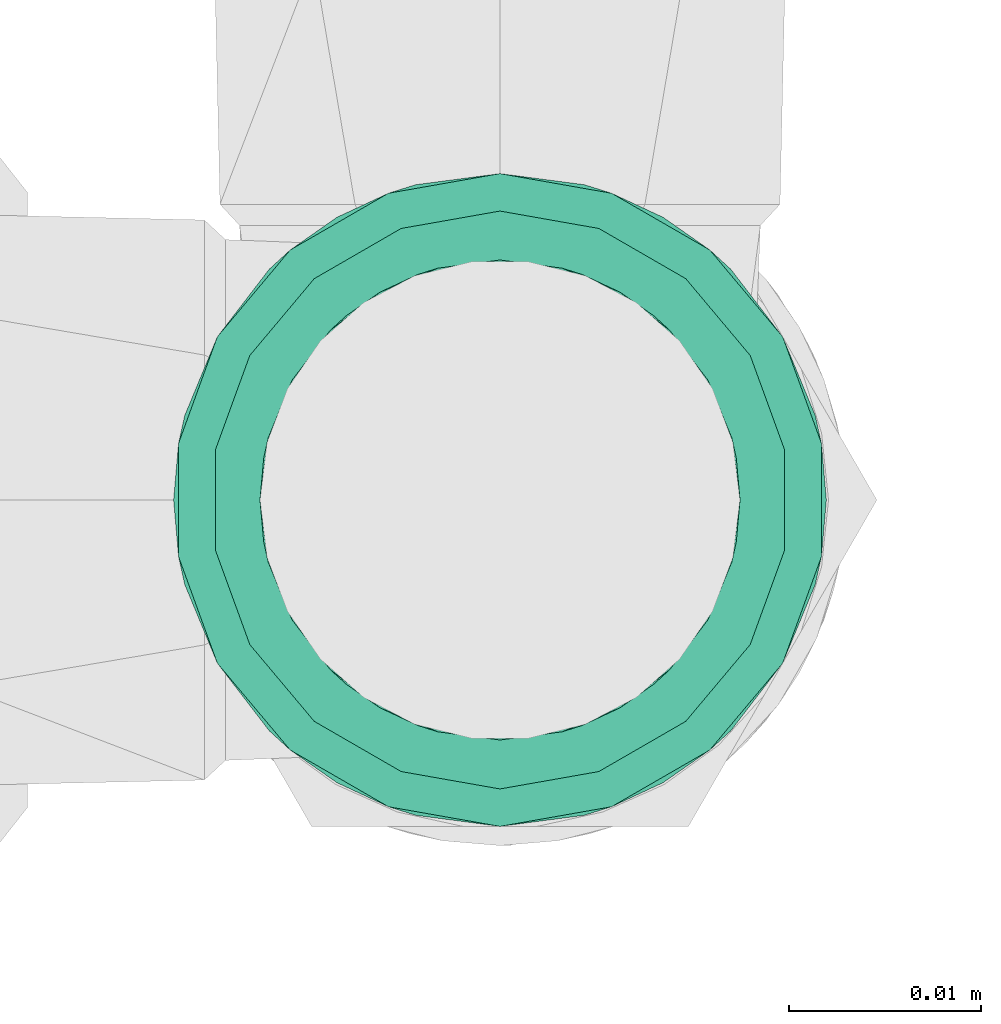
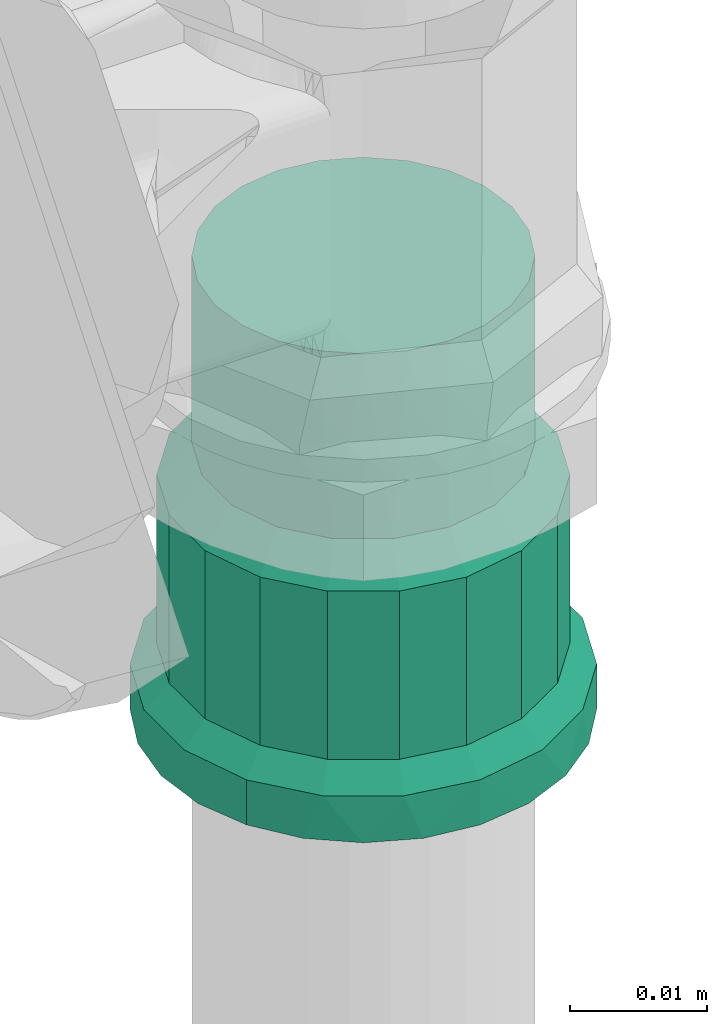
# One storey, part 325 of 589: 1 flow fitting.
"""IFC2X3 building model written with IfcOpenShell, lengths in millimetres."""

import ifcopenshell
import ifcopenshell.guid

model = None  # the IFC model being written
_history = None  # IfcOwnerHistory: only IFC2X3 demands one
_inside = {}  # id of a spatial element -> (the spatial element, [elements in it])
_under = {}  # id of a project, library or spatial element -> (it, [spatial elements below it])
_declared = {}  # id of a project -> (the project, [libraries it declares])
_typed = {}  # id of a type object -> (the type object, [elements of that type])
_made_of = {}  # id of a material, layer set ... -> (it, [elements and type objects made of it])


def new_model(schema):
    """Start an empty IFC model of exactly this schema.

    Asked for "IFC4X3", IfcOpenShell would pick the latest addendum, in which some entities
    have other attributes; the version numbers below select the first issue.
    IFC2X3 requires an IfcOwnerHistory on every rooted entity: one is made here for all.
    """
    global model, _history
    if schema == "IFC4X3":
        model = ifcopenshell.file(schema_version=(4, 3, 0, 0))
    else:
        model = ifcopenshell.file(schema=schema)
    _inside.clear()
    _under.clear()
    _declared.clear()
    _typed.clear()
    _made_of.clear()
    _history = None
    if model.schema == "IFC2X3":
        org = make("IfcOrganization", Name="unknown")
        user = make(
            "IfcPersonAndOrganization",
            ThePerson=make("IfcPerson", FamilyName="unknown"),
            TheOrganization=org,
        )
        app = make(
            "IfcApplication",
            ApplicationDeveloper=org,
            Version="unknown",
            ApplicationFullName="unknown",
            ApplicationIdentifier="unknown",
        )
        _history = make(
            "IfcOwnerHistory",
            OwningUser=user,
            OwningApplication=app,
            ChangeAction="ADDED",
            CreationDate=0,
        )
    return model


def make(cls, **values):
    """One entity of the class cls with the attributes given. An attribute that is None is left unset."""
    return model.create_entity(
        cls, **{name: value for name, value in values.items() if value is not None}
    )


def entity(cls, *values):
    """Any entity or typed value of the class cls, its attributes in the order of the schema. None: left unset."""
    e = model.create_entity(cls)
    for i, value in enumerate(values):
        if value is not None:
            e[i] = value
    return e


def rooted(cls, **values):
    """An entity with a GlobalId (a new one), such as an element, a storey or a relation."""
    return make(cls, GlobalId=ifcopenshell.guid.new(), OwnerHistory=_history, **values)


def si_unit(unit_type, name, prefix=None):
    """IfcSIUnit, for example si_unit("LENGTHUNIT", "METRE", prefix="MILLI")."""
    return make("IfcSIUnit", UnitType=unit_type, Prefix=prefix, Name=name)


def converted_unit(unit_type, name, factor, base, dimensions=None, offset=None):
    """IfcConversionBasedUnit, such as the inch: factor (a typed value) times the base unit."""
    return make(
        "IfcConversionBasedUnit"
        if offset is None
        else "IfcConversionBasedUnitWithOffset",
        ConversionOffset=offset,
        Dimensions=None
        if dimensions is None
        else entity("IfcDimensionalExponents", *dimensions),
        UnitType=unit_type,
        Name=name,
        ConversionFactor=make(
            "IfcMeasureWithUnit", ValueComponent=factor, UnitComponent=base
        ),
    )


def derived_unit(unit_type, elements):
    """IfcDerivedUnit: a product of units, each with its exponent."""
    return make(
        "IfcDerivedUnit",
        Elements=[
            make("IfcDerivedUnitElement", Unit=unit, Exponent=power)
            for unit, power in elements
        ],
        UnitType=unit_type,
    )


def assignment(units):
    """IfcUnitAssignment: the units of a project."""
    return None if units is None else make("IfcUnitAssignment", Units=units)


def point(xyz):
    """IfcCartesianPoint."""
    return None if xyz is None else make("IfcCartesianPoint", Coordinates=xyz)


def direction(xyz):
    """IfcDirection."""
    return None if xyz is None else make("IfcDirection", DirectionRatios=xyz)


def frame(location, z_axis=None, x_axis=None):
    """IfcAxis2Placement3D, a coordinate frame: its origin and axes. An axis left out is left unset."""
    return make(
        "IfcAxis2Placement3D",
        Location=point(location),
        Axis=direction(z_axis),
        RefDirection=direction(x_axis),
    )


def origin():
    """The frame at (0, 0, 0) with its axes left unset."""
    return frame((0.0, 0.0, 0.0))


def place(relative_to, where):
    """IfcLocalPlacement: puts the frame where relative to a parent placement (None: the world)."""
    return make(
        "IfcLocalPlacement", PlacementRelTo=relative_to, RelativePlacement=where
    )


def context(
    kind, dimensions, precision=None, world=None, true_north=None, identifier=None
):
    """IfcGeometricRepresentationContext, for example the 3D "Model" context."""
    return make(
        "IfcGeometricRepresentationContext",
        ContextIdentifier=identifier,
        ContextType=kind,
        CoordinateSpaceDimension=dimensions,
        Precision=precision,
        WorldCoordinateSystem=world,
        TrueNorth=true_north,
    )


def subcontext(parent, identifier, kind, view, scale=None):
    """IfcGeometricRepresentationSubContext, for example "Body" below "Model"."""
    return make(
        "IfcGeometricRepresentationSubContext",
        ContextIdentifier=identifier,
        ContextType=kind,
        ParentContext=parent,
        TargetScale=scale,
        TargetView=view,
    )


def project(units=None, contexts=None):
    """IfcProject with its units and contexts."""
    return rooted(
        "IfcProject",
        Name="project",
        RepresentationContexts=contexts,
        UnitsInContext=assignment(units),
    )


def spatial(cls, under=None, at=None, **own):
    """A site, building, storey or space (cls), placed at a placement, below another one or the project."""
    s = rooted(cls, ObjectPlacement=at, **own)
    if under is not None:
        _under.setdefault(under.id(), (under, []))[1].append(s)
    return s


def faces_of(points, faces, orient=None, outer=None):
    """IfcFace entities. A face is a list of loops; a loop is a list of indices into points, from 0.

    orient and outer hold one flag for each loop. By default every Orientation is true, the
    first loop of a face is its IfcFaceOuterBound and the others are IfcFaceBound.
    """
    made = []
    for i, loops in enumerate(faces):
        bounds = []
        for j, loop in enumerate(loops):
            is_outer = j == 0 if outer is None else outer[i][j]
            bounds.append(
                make(
                    "IfcFaceOuterBound" if is_outer else "IfcFaceBound",
                    Bound=make("IfcPolyLoop", Polygon=[points[k] for k in loop]),
                    Orientation=True if orient is None else orient[i][j],
                )
            )
        made.append(make("IfcFace", Bounds=bounds))
    return made


def faceted_brep(points, faces, orient=None, outer=None, voids=None):
    """IfcFacetedBrep: a solid bounded by flat faces; with voids (closed shells), ...WithVoids."""
    shared = [point(p) for p in points]
    hull = make("IfcClosedShell", CfsFaces=faces_of(shared, faces, orient, outer))
    if voids is None:
        return make("IfcFacetedBrep", Outer=hull)
    return make(
        "IfcFacetedBrepWithVoids",
        Outer=hull,
        Voids=[
            make(cls, CfsFaces=faces_of(shared, fs, o, b)) for cls, fs, o, b in voids
        ],
    )


def shape(context_of_items, identifier, shape_type, items):
    """IfcShapeRepresentation: the items that make up one representation, for example the "Body"."""
    return make(
        "IfcShapeRepresentation",
        ContextOfItems=context_of_items,
        RepresentationIdentifier=identifier,
        RepresentationType=shape_type,
        Items=items,
    )


def source(mapping_origin, context_of_items, identifier, shape_type, items):
    """IfcRepresentationMap: a shape defined once, which mapped items show again and again."""
    return make(
        "IfcRepresentationMap",
        MappingOrigin=mapping_origin,
        MappedRepresentation=shape(context_of_items, identifier, shape_type, items),
    )


def transform(
    local_origin,
    x_axis=None,
    y_axis=None,
    z_axis=None,
    scale=None,
    scale2=None,
    scale3=None,
    uniform=True,
):
    """IfcCartesianTransformationOperator3D, or its non-uniform kind. x_axis, y_axis, z_axis: its Axis1, 2, 3."""
    if uniform:
        return make(
            "IfcCartesianTransformationOperator3D",
            Axis1=direction(x_axis),
            Axis2=direction(y_axis),
            LocalOrigin=point(local_origin),
            Scale=scale,
            Axis3=direction(z_axis),
        )
    return make(
        "IfcCartesianTransformationOperator3DnonUniform",
        Axis1=direction(x_axis),
        Axis2=direction(y_axis),
        LocalOrigin=point(local_origin),
        Scale=scale,
        Axis3=direction(z_axis),
        Scale2=scale2,
        Scale3=scale3,
    )


def mapped(mapping_source, mapping_target):
    """IfcMappedItem: shows the shape of a source again, moved by a transform."""
    return make(
        "IfcMappedItem", MappingSource=mapping_source, MappingTarget=mapping_target
    )


def material(Name=None, Category=None):
    """IfcMaterial."""
    return make("IfcMaterial", Name=Name, Category=Category)


def made_of(thing, what):
    """Note that an element or type object is made of a material, layer set ...; save() writes the relation."""
    if what is not None:
        _made_of.setdefault(what.id(), (what, []))[1].append(thing)
    return thing


def type_object(cls, material=None, **own):
    """A type object (cls), such as IfcWallType, which elements share."""
    return made_of(rooted(cls, **own), material)


def type_shapes(of_type, sources):
    """Give a type object the sources (RepresentationMaps) that its elements show as mapped items."""
    of_type.RepresentationMaps = sources


def element(
    cls,
    number,
    at=None,
    inside=None,
    cuts=None,
    type_object=None,
    material=None,
    context=None,
    identifier="Body",
    shape_type=None,
    held_by="IfcProductDefinitionShape",
    body=None,
    shapes=None,
    **own,
):
    """One element of the class cls, such as IfcWall. Its Tag is "e" and its number.

    at: its placement. inside: the storey or other place that contains it. cuts: it is an
    opening in that element (IfcRelVoidsElement). A single representation is given by context,
    identifier, shape_type and body (its items); several are given by shapes. held_by: the class
    of the entity that holds the representations. save() writes the other relations.
    """
    e = rooted(cls, Tag="e%d" % number, ObjectPlacement=at, **own)
    if body is not None:
        shapes = [shape(context, identifier, shape_type, body)]
    if shapes is not None:
        e.Representation = make(held_by, Representations=shapes)
    if inside is not None:
        _inside.setdefault(inside.id(), (inside, []))[1].append(e)
    if cuts is not None:
        rooted(
            "IfcRelVoidsElement", RelatingBuildingElement=cuts, RelatedOpeningElement=e
        )
    if type_object is not None:
        _typed.setdefault(type_object.id(), (type_object, []))[1].append(e)
    return made_of(e, material)


def aggregate(whole, parts):
    """IfcRelAggregates: a whole, such as a stair, and the parts it consists of."""
    return rooted("IfcRelAggregates", RelatingObject=whole, RelatedObjects=parts)


def save(model, path):
    """Write the relations noted so far, then the file.

    IfcRelAggregates (storeys below a building ...), IfcRelContainedInSpatialStructure (elements
    in a storey), IfcRelDefinesByType, IfcRelAssociatesMaterial and IfcRelDeclares: one each for
    every whole, place, type object, material and project.
    """
    for whole, parts in _under.values():
        aggregate(whole, parts)
    for where, things in _inside.values():
        rooted(
            "IfcRelContainedInSpatialStructure",
            RelatedElements=things,
            RelatingStructure=where,
        )
    for kind, things in _typed.values():
        rooted("IfcRelDefinesByType", RelatedObjects=things, RelatingType=kind)
    for what, things in _made_of.values():
        rooted("IfcRelAssociatesMaterial", RelatedObjects=things, RelatingMaterial=what)
    for by, libraries in _declared.values():
        rooted("IfcRelDeclares", RelatingContext=by, RelatedDefinitions=libraries)
    model.write(path)


model = new_model("IFC2X3")

# Units and contexts
model_context = context("Model", 3, precision=0.01, world=origin(), true_north=direction((6.123031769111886e-17, 1.0)))
body_context = subcontext(model_context, "Body", "Model", "MODEL_VIEW")
ifc_project = project(units=[si_unit("LENGTHUNIT", "METRE", prefix="MILLI"), si_unit("AREAUNIT", "SQUARE_METRE"), si_unit("VOLUMEUNIT", "CUBIC_METRE"), converted_unit("PLANEANGLEUNIT", "DEGREE", entity("IfcRatioMeasure", 0.017453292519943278), si_unit("PLANEANGLEUNIT", "RADIAN"), dimensions=[0, 0, 0, 0, 0, 0, 0]), si_unit("MASSUNIT", "GRAM", prefix="KILO"), derived_unit("MASSDENSITYUNIT", [(si_unit("MASSUNIT", "GRAM", prefix="KILO"), 1), (si_unit("LENGTHUNIT", "METRE"), -3)]), derived_unit("IONCONCENTRATIONUNIT", [(si_unit("MASSUNIT", "GRAM", prefix="KILO"), 1), (si_unit("LENGTHUNIT", "METRE"), -3)]), derived_unit("MOMENTOFINERTIAUNIT", [(si_unit("LENGTHUNIT", "METRE"), 4)]), si_unit("TIMEUNIT", "SECOND"), si_unit("FREQUENCYUNIT", "HERTZ"), si_unit("THERMODYNAMICTEMPERATUREUNIT", "DEGREE_CELSIUS"), derived_unit("THERMALTRANSMITTANCEUNIT", [(si_unit("MASSUNIT", "GRAM", prefix="KILO"), 1), (si_unit("THERMODYNAMICTEMPERATUREUNIT", "KELVIN"), -1), (si_unit("TIMEUNIT", "SECOND"), -3)]), derived_unit("THERMALCONDUCTANCEUNIT", [(si_unit("MASSUNIT", "GRAM", prefix="KILO"), 1), (si_unit("THERMODYNAMICTEMPERATUREUNIT", "KELVIN"), -1), (si_unit("TIMEUNIT", "SECOND"), -3), (si_unit("LENGTHUNIT", "METRE"), 1)]), derived_unit("VOLUMETRICFLOWRATEUNIT", [(si_unit("LENGTHUNIT", "METRE"), 3), (si_unit("TIMEUNIT", "SECOND"), -1)]), derived_unit("MASSFLOWRATEUNIT", [(si_unit("MASSUNIT", "GRAM", prefix="KILO"), 1), (si_unit("TIMEUNIT", "SECOND"), -1)]), derived_unit("ROTATIONALFREQUENCYUNIT", [(si_unit("TIMEUNIT", "SECOND"), -1)]), si_unit("ELECTRICCURRENTUNIT", "AMPERE"), si_unit("ELECTRICVOLTAGEUNIT", "VOLT"), si_unit("POWERUNIT", "WATT"), si_unit("FORCEUNIT", "NEWTON", prefix="KILO"), si_unit("ILLUMINANCEUNIT", "LUX"), si_unit("LUMINOUSFLUXUNIT", "LUMEN"), si_unit("LUMINOUSINTENSITYUNIT", "CANDELA"), derived_unit("USERDEFINED", [(si_unit("MASSUNIT", "GRAM", prefix="KILO"), -1), (si_unit("LENGTHUNIT", "METRE"), -2), (si_unit("TIMEUNIT", "SECOND"), 3), (si_unit("LUMINOUSFLUXUNIT", "LUMEN"), 1)]), derived_unit("USERDEFINED", [(si_unit("MASSUNIT", "GRAM", prefix="KILO"), 1), (si_unit("TIMEUNIT", "SECOND"), -3), (si_unit("LENGTHUNIT", "METRE"), 3), (si_unit("ELECTRICCURRENTUNIT", "AMPERE"), -2)]), derived_unit("SOUNDPOWERUNIT", [(si_unit("MASSUNIT", "GRAM", prefix="KILO"), 1), (si_unit("TIMEUNIT", "SECOND"), -3), (si_unit("LENGTHUNIT", "METRE"), 2)]), derived_unit("SOUNDPRESSUREUNIT", [(si_unit("MASSUNIT", "GRAM", prefix="KILO"), 1), (si_unit("LENGTHUNIT", "METRE"), -1), (si_unit("TIMEUNIT", "SECOND"), -2)]), derived_unit("LINEARVELOCITYUNIT", [(si_unit("LENGTHUNIT", "METRE"), 1), (si_unit("TIMEUNIT", "SECOND"), -1)]), si_unit("PRESSUREUNIT", "PASCAL"), derived_unit("USERDEFINED", [(si_unit("MASSUNIT", "GRAM", prefix="KILO"), 1), (si_unit("LENGTHUNIT", "METRE"), -2), (si_unit("TIMEUNIT", "SECOND"), -2)]), derived_unit("LINEARFORCEUNIT", [(si_unit("MASSUNIT", "GRAM", prefix="KILO"), 1), (si_unit("TIMEUNIT", "SECOND"), -2)]), derived_unit("PLANARFORCEUNIT", [(si_unit("MASSUNIT", "GRAM", prefix="KILO"), 1), (si_unit("LENGTHUNIT", "METRE"), -1), (si_unit("TIMEUNIT", "SECOND"), -2)]), derived_unit("SPECIFICHEATCAPACITYUNIT", [(si_unit("THERMODYNAMICTEMPERATUREUNIT", "KELVIN"), -1), (si_unit("LENGTHUNIT", "METRE"), 2), (si_unit("TIMEUNIT", "SECOND"), -2)]), derived_unit("HEATINGVALUEUNIT", [(si_unit("LENGTHUNIT", "METRE"), 2), (si_unit("TIMEUNIT", "SECOND"), -2)]), derived_unit("VAPORPERMEABILITYUNIT", [(si_unit("LENGTHUNIT", "METRE"), -1), (si_unit("TIMEUNIT", "SECOND"), 1)]), derived_unit("DYNAMICVISCOSITYUNIT", [(si_unit("MASSUNIT", "GRAM", prefix="KILO"), 1), (si_unit("TIMEUNIT", "SECOND"), -1), (si_unit("LENGTHUNIT", "METRE"), -1)]), derived_unit("THERMALEXPANSIONCOEFFICIENTUNIT", [(si_unit("THERMODYNAMICTEMPERATUREUNIT", "KELVIN"), -1)]), derived_unit("MODULUSOFELASTICITYUNIT", [(si_unit("MASSUNIT", "GRAM", prefix="KILO"), 1), (si_unit("LENGTHUNIT", "METRE"), -1), (si_unit("TIMEUNIT", "SECOND"), -2)]), derived_unit("ISOTHERMALMOISTURECAPACITYUNIT", [(si_unit("LENGTHUNIT", "METRE"), 3), (si_unit("MASSUNIT", "GRAM", prefix="KILO"), -1)]), derived_unit("MOISTUREDIFFUSIVITYUNIT", [(si_unit("TIMEUNIT", "SECOND"), -1), (si_unit("LENGTHUNIT", "METRE"), 2)])], contexts=[model_context])

# Site, building, storey
site_placement = place(None, origin())
site = spatial("IfcSite", under=ifc_project, at=site_placement, Name="Default", CompositionType="ELEMENT")
building_placement = place(site_placement, origin())
building = spatial("IfcBuilding", under=site, at=building_placement, CompositionType="ELEMENT")
storey_placement = place(building_placement, frame((0.0, 0.0, 100.0)))
storey = spatial("IfcBuildingStorey", under=building, at=storey_placement, Name="TÉRREO", CompositionType="ELEMENT", Elevation=100.0)

# Flow fitting
ifc_material = material(Name="PVC Marrom")
pipe_fitting_type = type_object("IfcPipeFittingType", Name="PVC Marrom Soldável_Adaptador Curto com Bolsa e Rosca Aninhado_Rodrigo MEP:Adaptador", PredefinedType="NOTDEFINED", material=ifc_material)
shared_shape = source(origin(), body_context, "Body", "Brep", [
    faceted_brep([(0.0, -8.500000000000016, -14.72243186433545), (0.0, -12.020815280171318, -12.0208152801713), (0.0, -6.2499999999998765, -10.825317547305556), (0.0, -3.2352380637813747, -12.07407282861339), (0.0, -4.399923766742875, -16.420739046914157), (0.0, -8.838834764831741, -8.83883476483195), (0.0, -14.722431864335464, -8.499999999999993), (0.0, -10.825317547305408, -6.250000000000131), (0.0, -12.074072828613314, -3.2352380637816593), (0.0, -16.42073904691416, -4.399923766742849), (0.0, -12.5, 0.0), (0.0, -17.0, 0.0), (0.0, -12.074072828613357, 3.2352380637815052), (0.0, -16.420739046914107, 4.399923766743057), (0.0, -10.825317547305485, 6.2499999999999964), (0.0, -14.722431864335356, 8.500000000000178), (0.0, -8.83883476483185, 8.838834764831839), (0.0, -12.020815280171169, 12.020815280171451), (0.0, -6.250000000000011, 10.82531754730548), (0.0, -8.499999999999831, 14.722431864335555), (0.0, -3.2352380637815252, 12.07407282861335), (0.0, -4.39992376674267, 16.42073904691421), (0.0, 0.0, 12.5), (0.0, 0.0, 17.0), (0.0, 3.2352380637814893, 12.07407282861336), (0.0, 4.399923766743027, 16.420739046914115), (0.0, 6.24999999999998, 10.825317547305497), (0.0, 8.500000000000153, 14.722431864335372), (0.0, 8.838834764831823, 8.838834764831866), (0.0, 12.020815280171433, 12.020815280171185), (0.0, 10.82531754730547, 6.250000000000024), (0.0, 14.722431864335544, 8.499999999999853), (0.0, 16.42073904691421, 4.399923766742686), (0.0, 12.074072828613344, 3.2352380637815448), (0.0, 17.0, 0.0), (0.0, 12.5, 0.0), (0.0, 16.42073904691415, -4.399923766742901), (0.0, 12.074072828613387, -3.235238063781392), (0.0, 14.722431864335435, -8.500000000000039), (0.0, 10.82531754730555, -6.249999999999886), (0.0, 12.02081528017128, -12.020815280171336), (0.0, 8.838834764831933, -8.838834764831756), (0.0, 8.499999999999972, -14.722431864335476), (0.0, 6.250000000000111, -10.825317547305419), (0.0, 4.399923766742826, -16.42073904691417), (0.0, 3.235238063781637, -12.074072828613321), (0.0, 0.0, -17.0), (0.0, 0.0, -12.5), (4.0, 15.974612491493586, 5.8147876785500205), (4.0, 16.487306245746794, 2.9073938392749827), (4.0, 10.760457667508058, 12.825628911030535), (4.0, 13.022146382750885, 10.928115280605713), (4.0, 14.498379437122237, 8.371451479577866), (4.0, 5.724460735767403, 15.732601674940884), (4.0, 2.9501525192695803, 16.742060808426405), (4.0, 16.599682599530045, 2.2701277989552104), (4.0, 17.0, 0.0), (4.0, 8.498768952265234, 14.723142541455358), (4.0, -8.502461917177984, 14.721010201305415), (4.0, -5.728407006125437, 15.731165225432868), (4.0, -2.954352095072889, 16.74132024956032), (4.0, -13.02488724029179, 10.924848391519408), (4.0, -10.763674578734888, 12.82292929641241), (4.0, -17.0, 0.0), (4.0, -15.976070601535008, 5.8107803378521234), (4.0, -14.5004789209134, 8.367814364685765), (4.0, -0.002099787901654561, 16.741690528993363), (4.0, -15.97607060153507, -5.810780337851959), (4.0, -10.763674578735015, -12.822929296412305), (4.0, -13.024887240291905, -10.92484839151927), (4.0, -14.500478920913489, -8.367814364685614), (4.0, -5.728407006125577, -15.731165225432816), (4.0, -2.9543520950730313, -16.741320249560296), (4.0, -8.502461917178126, -14.721010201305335), (4.0, 16.487306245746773, -2.907393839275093), (4.0, 8.498768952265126, -14.72314254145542), (4.0, 5.724460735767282, -15.732601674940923), (4.0, 2.950152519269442, -16.74206080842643), (4.0, 13.022146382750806, -10.928115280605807), (4.0, 10.760457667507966, -12.825628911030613), (4.0, 15.974612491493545, -5.814787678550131), (4.0, 14.498379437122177, -8.371451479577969), (4.0, -0.002099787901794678, -16.741690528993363), (4.0, 16.599682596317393, -2.270127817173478), (20.85, 14.535973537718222, 2.9149513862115), (20.85, 14.596115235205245, 2.5738986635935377), (20.850000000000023, 15.05, 0.0), (5.900000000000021, 15.05, 0.0), (5.900000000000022, 14.59611523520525, 2.5738986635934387), (5.900000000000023, 14.142230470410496, 5.147797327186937), (20.84999999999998, 14.142230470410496, 5.147797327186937), (20.849999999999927, 9.52616987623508, 11.354453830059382), (20.84999999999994, 11.528429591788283, 9.674596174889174), (5.900000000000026, 11.528429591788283, 9.674596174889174), (5.900000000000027, 9.526169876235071, 11.354453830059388), (5.900000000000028, 7.523910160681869, 13.034311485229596), (20.84999999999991, 7.523910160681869, 13.034311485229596), (20.849999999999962, 12.835330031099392, 7.411196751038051), (5.900000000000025, 12.83533003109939, 7.411196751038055), (20.849999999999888, 2.6117526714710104, 14.821647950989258), (20.849999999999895, 5.067831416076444, 13.927979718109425), (5.900000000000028, 5.067831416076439, 13.927979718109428), (5.900000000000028, 2.6117526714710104, 14.821647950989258), (20.849999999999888, -2.61547053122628, 14.820992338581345), (20.849999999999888, -0.0018589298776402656, 14.821320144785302), (5.900000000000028, -0.0018589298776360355, 14.8213201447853), (5.900000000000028, -2.615470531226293, 14.820992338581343), (20.849999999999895, -5.0713250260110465, 13.926708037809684), (5.900000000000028, -5.071325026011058, 13.92670803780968), (5.900000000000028, -7.527179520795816, 13.032423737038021), (20.849999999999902, -7.527179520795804, 13.032423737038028), (5.900000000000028, -9.52901778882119, 11.35206387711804), (5.900000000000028, -11.530856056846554, 9.671704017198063), (20.84999999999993, -11.530856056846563, 9.671704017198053), (20.849999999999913, -9.529017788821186, 11.352063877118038), (20.849999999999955, -12.837188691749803, 7.407976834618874), (5.900000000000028, -12.837188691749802, 7.407976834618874), (5.900000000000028, -14.143521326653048, 5.144249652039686), (20.849999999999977, -14.143521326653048, 5.144249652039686), (5.900000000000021, -15.05, 0.0), (20.850000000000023, -15.05, 0.0), (20.85000000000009, -14.143521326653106, -5.144249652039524), (5.900000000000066, -14.143521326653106, -5.144249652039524), (20.850000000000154, -7.527179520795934, -13.032423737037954), (20.85000000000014, -9.529017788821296, -11.352063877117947), (20.85000000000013, -11.530856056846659, -9.67170401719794), (5.900000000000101, -11.530856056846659, -9.67170401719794), (5.900000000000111, -9.529017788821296, -11.352063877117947), (5.900000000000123, -7.527179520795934, -13.032423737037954), (5.90000000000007, 12.835330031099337, -7.411196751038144), (5.900000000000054, 14.142230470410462, -5.147797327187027), (20.850000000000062, 14.142230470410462, -5.147797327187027), (20.850000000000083, 12.835330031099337, -7.411196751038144), (20.850000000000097, 11.528429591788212, -9.67459617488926), (5.900000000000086, 11.528429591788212, -9.67459617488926), (5.90000000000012, 5.067831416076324, -13.927979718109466), (5.900000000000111, 7.523910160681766, -13.034311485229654), (20.850000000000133, 7.523910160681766, -13.034311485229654), (20.85000000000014, 5.067831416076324, -13.927979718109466), (20.850000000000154, 2.6117526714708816, -14.821647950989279), (5.900000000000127, 2.6117526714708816, -14.821647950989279), (20.850000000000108, -12.837188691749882, -7.40797683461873), (5.900000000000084, -12.837188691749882, -7.407976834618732), (20.85000000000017, -2.6154705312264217, -14.82099233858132), (20.850000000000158, -5.071325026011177, -13.926708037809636), (5.900000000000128, -5.071325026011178, -13.926708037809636), (5.900000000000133, -2.6154705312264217, -14.82099233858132), (5.900000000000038, 14.596115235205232, -2.573898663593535), (20.85000000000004, 14.667751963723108, -2.1676596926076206), (20.850000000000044, 14.535973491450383, -2.91495164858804), (5.900000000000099, 9.526169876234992, -11.354453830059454), (20.850000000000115, 9.52616987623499, -11.354453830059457), (20.850000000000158, -0.0018589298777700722, -14.821320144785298), (5.900000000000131, -0.0018589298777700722, -14.821320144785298), (40.29999999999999, 0.0, -12.5), (40.29999999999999, 3.2352380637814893, -12.07407282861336), (40.29999999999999, 6.24999999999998, -10.825317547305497), (40.29999999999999, 8.838834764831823, -8.838834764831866), (40.29999999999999, 10.825317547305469, -6.2500000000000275), (40.29999999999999, 12.074072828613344, -3.2352380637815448), (40.29999999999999, 12.5, 0.0), (40.29999999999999, 12.074072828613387, 3.235238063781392), (40.29999999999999, 10.825317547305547, 6.249999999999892), (40.29999999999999, 8.838834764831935, 8.838834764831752), (40.29999999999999, 6.250000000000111, 10.825317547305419), (40.29999999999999, 3.235238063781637, 12.074072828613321), (40.29999999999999, 0.0, 12.5), (40.29999999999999, -3.2352380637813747, 12.07407282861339), (40.29999999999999, -6.2499999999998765, 10.825317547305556), (40.29999999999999, -8.838834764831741, 8.83883476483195), (40.29999999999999, -10.825317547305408, 6.250000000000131), (40.29999999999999, -12.074072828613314, 3.2352380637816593), (40.29999999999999, -12.5, 0.0), (40.29999999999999, -12.074072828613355, -3.2352380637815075), (40.29999999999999, -10.825317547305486, -6.249999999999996), (40.29999999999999, -8.83883476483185, -8.838834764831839), (40.29999999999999, -6.250000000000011, -10.82531754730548), (40.29999999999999, -3.2352380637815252, -12.07407282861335), (23.749999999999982, 12.5, 0.0), (23.74999999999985, 9.57510763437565, 8.035378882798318), (23.749999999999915, 11.746038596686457, 4.275579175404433), (23.749999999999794, 6.249094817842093, 10.825840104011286), (23.74999999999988, 10.66057311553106, 6.155479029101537), (23.74999999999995, 12.182518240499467, 1.8003818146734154), (23.74999999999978, 4.209162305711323, 11.56808946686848), (23.74999999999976, 2.1692297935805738, 12.310338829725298), (23.74999999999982, 7.912101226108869, 9.430609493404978), (23.749999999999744, -2.1723177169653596, 12.309794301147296), (23.749999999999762, -6.251810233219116, 10.824272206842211), (23.749999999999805, -9.577122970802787, 8.032976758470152), (23.749999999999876, -11.747110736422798, 4.272632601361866), (23.749999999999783, -7.9144666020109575, 9.428624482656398), (23.74999999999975, -4.212063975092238, 11.56703325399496), (23.749999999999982, -12.5, 0.0), (23.749999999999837, -10.662116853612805, 6.15280467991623), (23.74999999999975, -0.0015439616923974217, 12.31006656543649), (23.750000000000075, -9.577122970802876, -8.032976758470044), (23.75000000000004, -11.747110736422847, -4.272632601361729), (23.750000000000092, -6.2518102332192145, -10.824272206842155), (23.750000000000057, -10.662116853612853, -6.152804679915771), (23.7500000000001, -4.212063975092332, -11.56703325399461), (23.7500000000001, -2.1723177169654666, -12.309794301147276), (23.75000000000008, -7.914466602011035, -9.428624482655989), (23.750000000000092, 2.1692297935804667, -12.310338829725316), (23.750000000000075, 6.249094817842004, -10.82584010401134), (23.750000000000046, 9.575107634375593, -8.035378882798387), (23.750000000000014, 11.74603859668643, -4.275579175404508), (23.750000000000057, 7.912101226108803, -9.430609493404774), (23.75000000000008, 4.209162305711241, -11.56808946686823), (23.749999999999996, 12.123019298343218, -2.1377895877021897), (23.750000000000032, 10.660573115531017, -6.155479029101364), (23.750000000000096, -0.0015439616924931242, -12.310066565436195), (5.900000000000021, 12.07407282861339, -3.2352380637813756), (20.850000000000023, 12.07407282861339, -3.2352380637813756), (20.850000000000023, 12.5, 0.0), (5.900000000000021, 12.5, 0.0), (4.0, 12.5, 0.0), (4.0, 12.07407282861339, -3.2352380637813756), (5.900000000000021, 10.825317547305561, -6.249999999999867), (20.850000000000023, 10.825317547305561, -6.249999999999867), (4.0, 10.825317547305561, -6.249999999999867), (20.850000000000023, 6.250000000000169, -10.825317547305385), (20.850000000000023, 8.838834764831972, -8.838834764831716), (5.900000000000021, 8.838834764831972, -8.838834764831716), (4.0, 8.838834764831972, -8.838834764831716), (4.0, 6.250000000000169, -10.825317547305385), (5.900000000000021, 6.250000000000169, -10.825317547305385), (20.850000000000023, 3.235238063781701, -12.074072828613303), (4.0, 3.235238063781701, -12.074072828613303), (5.900000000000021, 3.235238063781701, -12.074072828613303), (20.850000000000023, 0.0, -12.5), (4.0, 0.0, -12.5), (5.900000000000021, 0.0, -12.5), (5.900000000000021, -3.2352380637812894, -12.074072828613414), (20.850000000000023, -3.2352380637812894, -12.074072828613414), (4.0, -3.2352380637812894, -12.074072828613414), (5.900000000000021, -6.24999999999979, -10.825317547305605), (20.850000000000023, -6.24999999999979, -10.825317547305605), (4.0, -6.24999999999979, -10.825317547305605), (20.850000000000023, -10.825317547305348, -6.250000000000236), (20.850000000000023, -8.838834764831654, -8.838834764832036), (5.900000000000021, -8.838834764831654, -8.838834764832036), (4.0, -8.838834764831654, -8.838834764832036), (4.0, -10.825317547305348, -6.250000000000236), (5.900000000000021, -10.825317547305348, -6.250000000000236), (20.850000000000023, -12.07407282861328, -3.2352380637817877), (4.0, -12.07407282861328, -3.2352380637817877), (5.900000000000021, -12.07407282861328, -3.2352380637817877), (20.850000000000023, -12.5, 0.0), (4.0, -12.5, 0.0), (5.900000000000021, -12.5, 0.0), (5.900000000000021, -12.074072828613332, 3.2352380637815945), (20.850000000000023, -12.074072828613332, 3.2352380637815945), (4.0, -12.074072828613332, 3.2352380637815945), (5.900000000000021, -10.82531754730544, 6.250000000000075), (20.850000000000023, -10.82531754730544, 6.250000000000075), (4.0, -10.82531754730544, 6.250000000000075), (20.850000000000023, -6.249999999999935, 10.825317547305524), (20.850000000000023, -8.838834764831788, 8.838834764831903), (5.900000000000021, -8.838834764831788, 8.838834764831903), (4.0, -8.838834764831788, 8.838834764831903), (4.0, -6.249999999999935, 10.825317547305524), (5.900000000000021, -6.249999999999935, 10.825317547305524), (20.850000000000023, -3.2352380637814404, 12.074072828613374), (4.0, -3.2352380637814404, 12.074072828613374), (5.900000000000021, -3.2352380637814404, 12.074072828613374), (20.850000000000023, 0.0, 12.5), (4.0, 0.0, 12.5), (5.900000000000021, 0.0, 12.5), (5.900000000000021, 3.2352380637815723, 12.074072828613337), (20.850000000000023, 3.2352380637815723, 12.074072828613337), (4.0, 3.2352380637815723, 12.074072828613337), (5.900000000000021, 6.250000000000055, 10.825317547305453), (20.850000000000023, 6.250000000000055, 10.825317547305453), (4.0, 6.250000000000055, 10.825317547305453), (20.850000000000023, 10.825317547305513, 6.249999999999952), (20.850000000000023, 8.838834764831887, 8.838834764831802), (5.900000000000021, 8.838834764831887, 8.838834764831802), (4.0, 8.838834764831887, 8.838834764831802), (4.0, 10.825317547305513, 6.249999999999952), (5.900000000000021, 10.825317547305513, 6.249999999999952), (20.850000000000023, 12.07407282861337, 3.2352380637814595), (4.0, 12.07407282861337, 3.2352380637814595), (5.900000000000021, 12.07407282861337, 3.2352380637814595)], [[[0, 1, 2]], [[0, 2, 3]], [[3, 4, 0]], [[2, 1, 5]], [[6, 5, 1]], [[7, 5, 6]], [[8, 7, 6]], [[8, 6, 9]], [[8, 9, 10]], [[10, 9, 11]], [[12, 10, 11]], [[12, 11, 13]], [[14, 12, 13]], [[14, 13, 15]], [[16, 14, 15]], [[15, 17, 16]], [[17, 18, 16]], [[18, 17, 19]], [[18, 19, 20]], [[21, 20, 19]], [[20, 21, 22]], [[22, 21, 23]], [[23, 24, 22]], [[24, 23, 25]], [[24, 25, 26]], [[27, 26, 25]], [[27, 28, 26]], [[27, 29, 28]], [[30, 28, 29]], [[31, 30, 29]], [[32, 30, 31]], [[33, 30, 32]], [[33, 32, 34]], [[34, 35, 33]], [[36, 35, 34]], [[36, 37, 35]], [[37, 36, 38]], [[39, 37, 38]], [[39, 38, 40]], [[39, 40, 41]], [[40, 42, 41]], [[41, 42, 43]], [[43, 42, 44]], [[44, 45, 43]], [[46, 45, 44]], [[4, 47, 46]], [[45, 46, 47]], [[4, 3, 47]], [[32, 48, 49]], [[50, 51, 29]], [[52, 48, 31, 51]], [[53, 25, 54]], [[48, 32, 31]], [[34, 49, 55, 56]], [[27, 57, 50]], [[29, 27, 50]], [[29, 51, 31]], [[19, 58, 59]], [[21, 19, 59]], [[53, 57, 27]], [[25, 53, 27]], [[54, 25, 23]], [[32, 49, 34]], [[59, 60, 21]], [[61, 62, 17]], [[63, 64, 13]], [[65, 61, 15, 64]], [[11, 63, 13]], [[17, 62, 19]], [[66, 54, 23, 60]], [[21, 60, 23]], [[61, 17, 15]], [[19, 62, 58]], [[13, 64, 15]], [[67, 63, 9]], [[68, 69, 1]], [[70, 67, 6, 69]], [[71, 4, 72]], [[67, 9, 6]], [[63, 11, 9]], [[4, 71, 0]], [[0, 73, 68]], [[1, 69, 6]], [[36, 34, 74]], [[42, 75, 76]], [[71, 73, 0]], [[44, 42, 76]], [[72, 4, 46]], [[1, 0, 68]], [[76, 77, 44]], [[78, 79, 40]], [[74, 80, 36]], [[81, 78, 38, 80]], [[36, 80, 38]], [[40, 79, 42]], [[82, 72, 46, 77]], [[44, 77, 46]], [[78, 40, 38]], [[42, 79, 75]], [[34, 56, 83, 74]], [[84, 85, 86, 87, 88, 89, 90]], [[91, 92, 93, 94, 95, 96]], [[92, 97, 90, 89, 98, 93]], [[99, 100, 96, 95, 101, 102]], [[103, 104, 99, 102, 105, 106]], [[107, 103, 106, 108, 109, 110]], [[111, 112, 113, 114, 110, 109]], [[115, 113, 112, 116, 117, 118]], [[117, 119, 120, 118]], [[121, 120, 119, 122]], [[123, 124, 125, 126, 127, 128]], [[129, 130, 131, 132, 133, 134]], [[135, 136, 137, 138, 139, 140]], [[125, 141, 121, 122, 142, 126]], [[143, 144, 123, 128, 145, 146]], [[131, 130, 147, 87, 86, 148, 149]], [[150, 134, 133, 151, 137, 136]], [[139, 152, 143, 146, 153, 140]], [[154, 155, 156, 157, 158, 159, 160, 161, 162, 163, 164, 165, 166, 167, 168, 169, 170, 171, 172, 173, 174, 175, 176, 177]], [[161, 160, 178]], [[163, 162, 179]], [[180, 162, 161]], [[181, 164, 163]], [[162, 180, 182, 179]], [[161, 178, 183, 180]], [[165, 181, 184, 185]], [[163, 179, 186, 181]], [[166, 165, 185]], [[165, 164, 181]], [[166, 187, 167]], [[167, 188, 168]], [[170, 169, 189]], [[188, 169, 168]], [[171, 170, 190]], [[169, 188, 191, 189]], [[167, 187, 192, 188]], [[190, 193, 171]], [[170, 189, 194, 190]], [[193, 172, 171]], [[166, 185, 195, 187]], [[173, 172, 193]], [[175, 174, 196]], [[197, 174, 173]], [[198, 176, 175]], [[174, 197, 199, 196]], [[173, 193, 197]], [[177, 198, 200, 201]], [[175, 196, 202, 198]], [[154, 177, 201]], [[177, 176, 198]], [[154, 203, 155]], [[155, 204, 156]], [[158, 157, 205]], [[204, 157, 156]], [[159, 158, 206]], [[157, 204, 207, 205]], [[155, 203, 208, 204]], [[159, 206, 209, 178]], [[158, 205, 210, 206]], [[178, 160, 159]], [[154, 201, 211, 203]], [[212, 213, 214, 215, 216, 35, 37, 217]], [[218, 219, 213, 212, 217, 37, 39, 220]], [[221, 222, 223, 224, 41, 43, 225, 226]], [[218, 220, 39, 41, 224, 223, 222, 219]], [[227, 221, 226, 225, 43, 45, 228, 229]], [[230, 227, 229, 228, 45, 47, 231, 232]], [[233, 234, 230, 232, 231, 47, 3, 235]], [[236, 237, 234, 233, 235, 3, 2, 238]], [[239, 240, 241, 242, 5, 7, 243, 244]], [[236, 238, 2, 5, 242, 241, 240, 237]], [[245, 239, 244, 243, 7, 8, 246, 247]], [[248, 245, 247, 246, 8, 10, 249, 250]], [[251, 252, 248, 250, 249, 10, 12, 253]], [[254, 255, 252, 251, 253, 12, 14, 256]], [[257, 258, 259, 260, 16, 18, 261, 262]], [[254, 256, 14, 16, 260, 259, 258, 255]], [[263, 257, 262, 261, 18, 20, 264, 265]], [[266, 263, 265, 264, 20, 22, 267, 268]], [[269, 270, 266, 268, 267, 22, 24, 271]], [[272, 273, 270, 269, 271, 24, 26, 274]], [[275, 276, 277, 278, 28, 30, 279, 280]], [[272, 274, 26, 28, 278, 277, 276, 273]], [[281, 275, 280, 279, 30, 33, 282, 283]], [[214, 281, 283, 282, 33, 35, 216, 215]], [[63, 67, 122, 119]], [[145, 128, 73, 71, 72, 146]], [[68, 73, 128, 127, 126, 69]], [[126, 142, 122, 67, 70, 69]], [[76, 75, 136, 135, 140, 77]], [[81, 80, 130, 129, 134, 78]], [[147, 130, 80, 74, 83, 56, 87]], [[140, 153, 146, 72, 82, 77]], [[134, 150, 136, 75, 79, 78]], [[89, 88, 87, 56, 55, 49, 48]], [[98, 89, 48, 52, 51, 93]], [[94, 93, 51, 50, 57, 95]], [[57, 53, 54, 102, 101, 95]], [[66, 60, 106, 105, 102, 54]], [[58, 109, 108, 106, 60, 59]], [[63, 119, 117, 64]], [[61, 65, 64, 117, 116, 112]], [[58, 62, 61, 112, 111, 109]], [[227, 230, 234, 237, 240, 239, 245, 248, 252, 255, 258, 257, 263, 266, 270, 273, 276, 275, 281, 214, 213, 219, 222, 221]], [[180, 183, 178, 86, 85, 84, 90]], [[100, 99, 185, 184, 181, 96]], [[181, 186, 179, 92, 91, 96]], [[179, 182, 180, 90, 97, 92]], [[104, 103, 187, 195, 185, 99]], [[115, 118, 190, 194, 189, 113]], [[107, 110, 188, 192, 187, 103]], [[118, 120, 193, 190]], [[189, 191, 188, 110, 114, 113]], [[120, 121, 197, 193]], [[200, 198, 123, 144, 143, 201]], [[124, 123, 198, 202, 196, 125]], [[196, 199, 197, 121, 141, 125]], [[138, 137, 204, 208, 203, 139]], [[132, 131, 206, 210, 205, 133]], [[209, 206, 131, 149, 148, 86, 178]], [[203, 211, 201, 143, 152, 139]], [[205, 207, 204, 137, 151, 133]]]),
])
type_shapes(pipe_fitting_type, [shared_shape])
flow_fitting_placement = place(storey_placement, frame((341.4423921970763, -7747.531283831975, 2165.2512082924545), z_axis=(-1.0, 0.0, 0.0), x_axis=(0.0, 0.0, 1.0)))
element("IfcFlowFitting", 1, at=flow_fitting_placement, inside=storey, type_object=pipe_fitting_type, material=ifc_material, Name="PVC Marrom Soldável_Adaptador Curto com Bolsa e Rosca Aninhado_Rodrigo MEP:Adaptador", ObjectType="PVC Marrom Soldável_Adaptador Curto com Bolsa e Rosca Aninhado_Rodrigo MEP:Adaptador", context=body_context, shape_type="MappedRepresentation", body=[
    mapped(shared_shape, transform((0.0, 0.0, 0.0), scale=1.0)),
])

save(model, "model.ifc")
